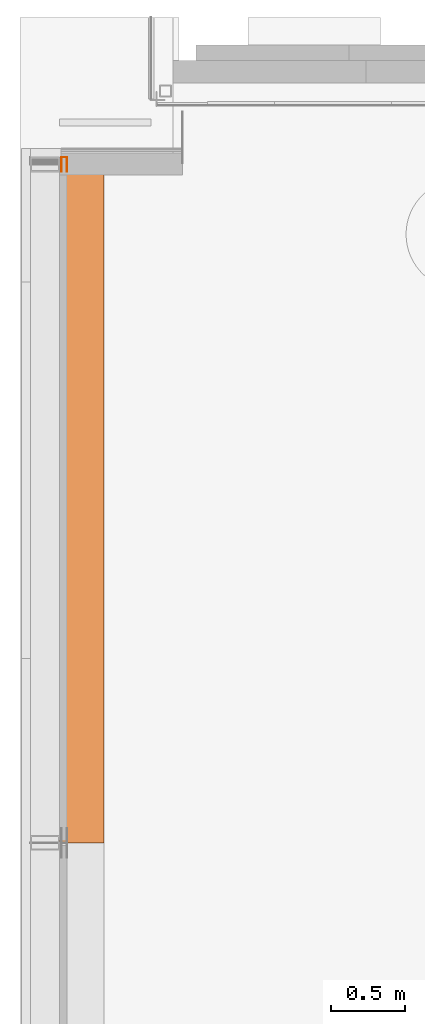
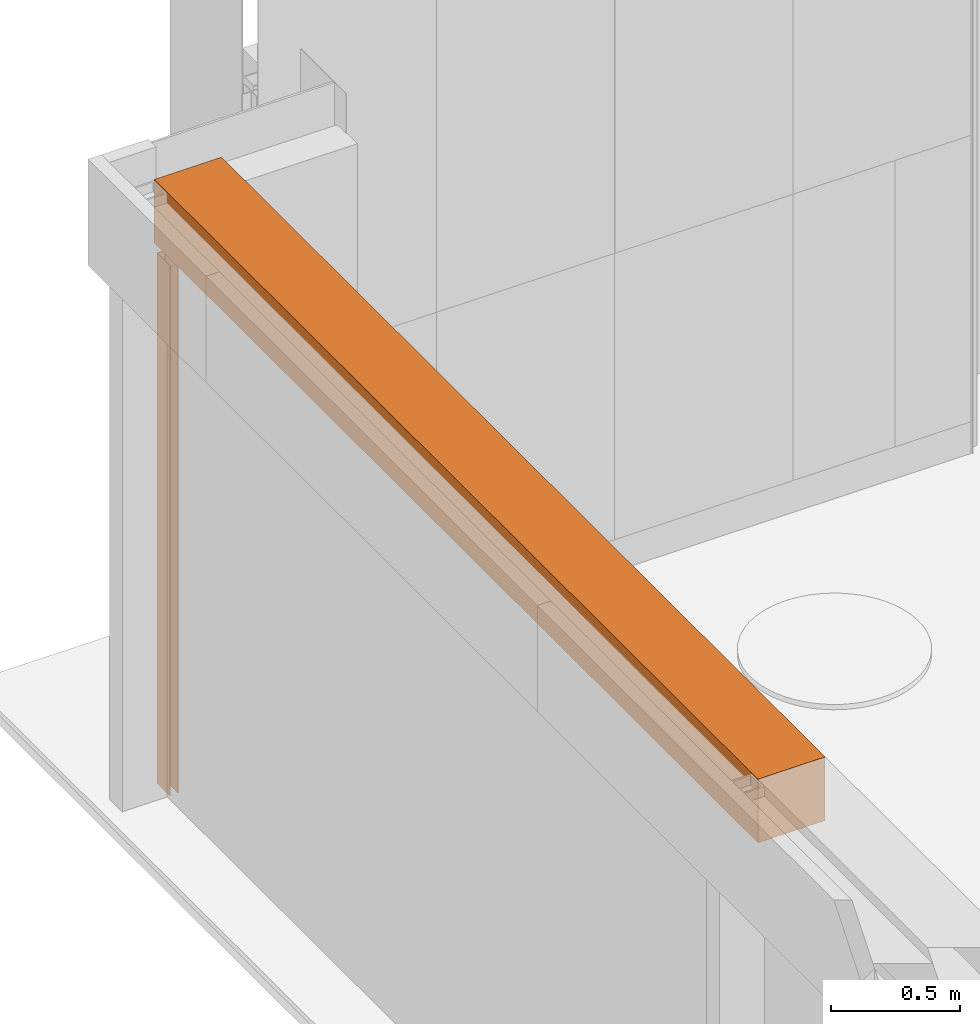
# One storey, part 12 of 14: 2 proxies.
"""IFC2X3 building model written with IfcOpenShell, lengths in millimetres."""

import ifcopenshell
import ifcopenshell.guid

model = None  # the IFC model being written
_history = None  # IfcOwnerHistory: only IFC2X3 demands one
_inside = {}  # id of a spatial element -> (the spatial element, [elements in it])
_under = {}  # id of a project, library or spatial element -> (it, [spatial elements below it])
_declared = {}  # id of a project -> (the project, [libraries it declares])
_typed = {}  # id of a type object -> (the type object, [elements of that type])
_made_of = {}  # id of a material, layer set ... -> (it, [elements and type objects made of it])


def new_model(schema):
    """Start an empty IFC model of exactly this schema.

    Asked for "IFC4X3", IfcOpenShell would pick the latest addendum, in which some entities
    have other attributes; the version numbers below select the first issue.
    IFC2X3 requires an IfcOwnerHistory on every rooted entity: one is made here for all.
    """
    global model, _history
    if schema == "IFC4X3":
        model = ifcopenshell.file(schema_version=(4, 3, 0, 0))
    else:
        model = ifcopenshell.file(schema=schema)
    _inside.clear()
    _under.clear()
    _declared.clear()
    _typed.clear()
    _made_of.clear()
    _history = None
    if model.schema == "IFC2X3":
        org = make("IfcOrganization", Name="unknown")
        user = make(
            "IfcPersonAndOrganization",
            ThePerson=make("IfcPerson", FamilyName="unknown"),
            TheOrganization=org,
        )
        app = make(
            "IfcApplication",
            ApplicationDeveloper=org,
            Version="unknown",
            ApplicationFullName="unknown",
            ApplicationIdentifier="unknown",
        )
        _history = make(
            "IfcOwnerHistory",
            OwningUser=user,
            OwningApplication=app,
            ChangeAction="ADDED",
            CreationDate=0,
        )
    return model


def make(cls, **values):
    """One entity of the class cls with the attributes given. An attribute that is None is left unset."""
    return model.create_entity(
        cls, **{name: value for name, value in values.items() if value is not None}
    )


def entity(cls, *values):
    """Any entity or typed value of the class cls, its attributes in the order of the schema. None: left unset."""
    e = model.create_entity(cls)
    for i, value in enumerate(values):
        if value is not None:
            e[i] = value
    return e


def rooted(cls, **values):
    """An entity with a GlobalId (a new one), such as an element, a storey or a relation."""
    return make(cls, GlobalId=ifcopenshell.guid.new(), OwnerHistory=_history, **values)


def si_unit(unit_type, name, prefix=None):
    """IfcSIUnit, for example si_unit("LENGTHUNIT", "METRE", prefix="MILLI")."""
    return make("IfcSIUnit", UnitType=unit_type, Prefix=prefix, Name=name)


def converted_unit(unit_type, name, factor, base, dimensions=None, offset=None):
    """IfcConversionBasedUnit, such as the inch: factor (a typed value) times the base unit."""
    return make(
        "IfcConversionBasedUnit"
        if offset is None
        else "IfcConversionBasedUnitWithOffset",
        ConversionOffset=offset,
        Dimensions=None
        if dimensions is None
        else entity("IfcDimensionalExponents", *dimensions),
        UnitType=unit_type,
        Name=name,
        ConversionFactor=make(
            "IfcMeasureWithUnit", ValueComponent=factor, UnitComponent=base
        ),
    )


def derived_unit(unit_type, elements):
    """IfcDerivedUnit: a product of units, each with its exponent."""
    return make(
        "IfcDerivedUnit",
        Elements=[
            make("IfcDerivedUnitElement", Unit=unit, Exponent=power)
            for unit, power in elements
        ],
        UnitType=unit_type,
    )


def assignment(units):
    """IfcUnitAssignment: the units of a project."""
    return None if units is None else make("IfcUnitAssignment", Units=units)


def point(xyz):
    """IfcCartesianPoint."""
    return None if xyz is None else make("IfcCartesianPoint", Coordinates=xyz)


def direction(xyz):
    """IfcDirection."""
    return None if xyz is None else make("IfcDirection", DirectionRatios=xyz)


def frame(location, z_axis=None, x_axis=None):
    """IfcAxis2Placement3D, a coordinate frame: its origin and axes. An axis left out is left unset."""
    return make(
        "IfcAxis2Placement3D",
        Location=point(location),
        Axis=direction(z_axis),
        RefDirection=direction(x_axis),
    )


def frame_2d(location, x_axis=None):
    """IfcAxis2Placement2D, a coordinate frame in the plane: its origin and x axis."""
    return make(
        "IfcAxis2Placement2D", Location=point(location), RefDirection=direction(x_axis)
    )


def origin():
    """The frame at (0, 0, 0) with its axes left unset."""
    return frame((0.0, 0.0, 0.0))


def origin_with_axes():
    """The frame at (0, 0, 0) with the z axis (0, 0, 1) and the x axis (1, 0, 0) written out."""
    return frame((0.0, 0.0, 0.0), z_axis=(0.0, 0.0, 1.0), x_axis=(1.0, 0.0, 0.0))


def place(relative_to, where):
    """IfcLocalPlacement: puts the frame where relative to a parent placement (None: the world)."""
    return make(
        "IfcLocalPlacement", PlacementRelTo=relative_to, RelativePlacement=where
    )


def context(
    kind, dimensions, precision=None, world=None, true_north=None, identifier=None
):
    """IfcGeometricRepresentationContext, for example the 3D "Model" context."""
    return make(
        "IfcGeometricRepresentationContext",
        ContextIdentifier=identifier,
        ContextType=kind,
        CoordinateSpaceDimension=dimensions,
        Precision=precision,
        WorldCoordinateSystem=world,
        TrueNorth=true_north,
    )


def subcontext(parent, identifier, kind, view, scale=None):
    """IfcGeometricRepresentationSubContext, for example "Body" below "Model"."""
    return make(
        "IfcGeometricRepresentationSubContext",
        ContextIdentifier=identifier,
        ContextType=kind,
        ParentContext=parent,
        TargetScale=scale,
        TargetView=view,
    )


def project(units=None, contexts=None):
    """IfcProject with its units and contexts."""
    return rooted(
        "IfcProject",
        Name="project",
        RepresentationContexts=contexts,
        UnitsInContext=assignment(units),
    )


def spatial(cls, under=None, at=None, **own):
    """A site, building, storey or space (cls), placed at a placement, below another one or the project."""
    s = rooted(cls, ObjectPlacement=at, **own)
    if under is not None:
        _under.setdefault(under.id(), (under, []))[1].append(s)
    return s


def polyline(points):
    """IfcPolyline through the points."""
    return make("IfcPolyline", Points=[point(p) for p in points])


def profile(cls, at=None, kind="AREA", **sizes):
    """A parametric profile (cls). Its sizes go by their IFC names, for example OverallWidth=200.0."""
    return make(cls, ProfileType=kind, Position=at, **sizes)


def rectangle(**sizes):
    """IfcRectangleProfileDef."""
    return profile("IfcRectangleProfileDef", **sizes)


def outline(outer, holes=None, kind="AREA"):
    """IfcArbitraryClosedProfileDef: a profile drawn as a closed curve; with holes, ...WithVoids."""
    if holes is None:
        return make("IfcArbitraryClosedProfileDef", ProfileType=kind, OuterCurve=outer)
    return make(
        "IfcArbitraryProfileDefWithVoids",
        ProfileType=kind,
        OuterCurve=outer,
        InnerCurves=holes,
    )


def extrude(swept, where, along, depth):
    """IfcExtrudedAreaSolid: the profile swept, set in the frame where, extruded along a direction by depth."""
    return make(
        "IfcExtrudedAreaSolid",
        SweptArea=swept,
        Position=where,
        ExtrudedDirection=direction(along),
        Depth=depth,
    )


def shape(context_of_items, identifier, shape_type, items):
    """IfcShapeRepresentation: the items that make up one representation, for example the "Body"."""
    return make(
        "IfcShapeRepresentation",
        ContextOfItems=context_of_items,
        RepresentationIdentifier=identifier,
        RepresentationType=shape_type,
        Items=items,
    )


def source(mapping_origin, context_of_items, identifier, shape_type, items):
    """IfcRepresentationMap: a shape defined once, which mapped items show again and again."""
    return make(
        "IfcRepresentationMap",
        MappingOrigin=mapping_origin,
        MappedRepresentation=shape(context_of_items, identifier, shape_type, items),
    )


def transform(
    local_origin,
    x_axis=None,
    y_axis=None,
    z_axis=None,
    scale=None,
    scale2=None,
    scale3=None,
    uniform=True,
):
    """IfcCartesianTransformationOperator3D, or its non-uniform kind. x_axis, y_axis, z_axis: its Axis1, 2, 3."""
    if uniform:
        return make(
            "IfcCartesianTransformationOperator3D",
            Axis1=direction(x_axis),
            Axis2=direction(y_axis),
            LocalOrigin=point(local_origin),
            Scale=scale,
            Axis3=direction(z_axis),
        )
    return make(
        "IfcCartesianTransformationOperator3DnonUniform",
        Axis1=direction(x_axis),
        Axis2=direction(y_axis),
        LocalOrigin=point(local_origin),
        Scale=scale,
        Axis3=direction(z_axis),
        Scale2=scale2,
        Scale3=scale3,
    )


def mapped(mapping_source, mapping_target):
    """IfcMappedItem: shows the shape of a source again, moved by a transform."""
    return make(
        "IfcMappedItem", MappingSource=mapping_source, MappingTarget=mapping_target
    )


def material(Name=None, Category=None):
    """IfcMaterial."""
    return make("IfcMaterial", Name=Name, Category=Category)


def made_of(thing, what):
    """Note that an element or type object is made of a material, layer set ...; save() writes the relation."""
    if what is not None:
        _made_of.setdefault(what.id(), (what, []))[1].append(thing)
    return thing


def type_object(cls, material=None, **own):
    """A type object (cls), such as IfcWallType, which elements share."""
    return made_of(rooted(cls, **own), material)


def element(
    cls,
    number,
    at=None,
    inside=None,
    cuts=None,
    type_object=None,
    material=None,
    context=None,
    identifier="Body",
    shape_type=None,
    held_by="IfcProductDefinitionShape",
    body=None,
    shapes=None,
    **own,
):
    """One element of the class cls, such as IfcWall. Its Tag is "e" and its number.

    at: its placement. inside: the storey or other place that contains it. cuts: it is an
    opening in that element (IfcRelVoidsElement). A single representation is given by context,
    identifier, shape_type and body (its items); several are given by shapes. held_by: the class
    of the entity that holds the representations. save() writes the other relations.
    """
    e = rooted(cls, Tag="e%d" % number, ObjectPlacement=at, **own)
    if body is not None:
        shapes = [shape(context, identifier, shape_type, body)]
    if shapes is not None:
        e.Representation = make(held_by, Representations=shapes)
    if inside is not None:
        _inside.setdefault(inside.id(), (inside, []))[1].append(e)
    if cuts is not None:
        rooted(
            "IfcRelVoidsElement", RelatingBuildingElement=cuts, RelatedOpeningElement=e
        )
    if type_object is not None:
        _typed.setdefault(type_object.id(), (type_object, []))[1].append(e)
    return made_of(e, material)


def aggregate(whole, parts):
    """IfcRelAggregates: a whole, such as a stair, and the parts it consists of."""
    return rooted("IfcRelAggregates", RelatingObject=whole, RelatedObjects=parts)


def save(model, path):
    """Write the relations noted so far, then the file.

    IfcRelAggregates (storeys below a building ...), IfcRelContainedInSpatialStructure (elements
    in a storey), IfcRelDefinesByType, IfcRelAssociatesMaterial and IfcRelDeclares: one each for
    every whole, place, type object, material and project.
    """
    for whole, parts in _under.values():
        aggregate(whole, parts)
    for where, things in _inside.values():
        rooted(
            "IfcRelContainedInSpatialStructure",
            RelatedElements=things,
            RelatingStructure=where,
        )
    for kind, things in _typed.values():
        rooted("IfcRelDefinesByType", RelatedObjects=things, RelatingType=kind)
    for what, things in _made_of.values():
        rooted("IfcRelAssociatesMaterial", RelatedObjects=things, RelatingMaterial=what)
    for by, libraries in _declared.values():
        rooted("IfcRelDeclares", RelatingContext=by, RelatedDefinitions=libraries)
    model.write(path)


model = new_model("IFC2X3")

# Units and contexts
model_context = context("Model", 3, precision=0.01, world=frame((0.0, 4.29681676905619e-09, 0.0)), true_north=direction((4.01073788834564e-13, 1.0)))
plan_context = context("Plan", 3, precision=0.01, world=frame((0.0, 4.29681676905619e-09, 0.0)), true_north=direction((4.01073788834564e-13, 1.0)))
body_context = subcontext(model_context, "Body", "Model", "MODEL_VIEW")
ifc_project = project(units=[converted_unit("PLANEANGLEUNIT", "DEGREE", entity("IfcPositiveLengthMeasure", 0.0174532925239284), si_unit("PLANEANGLEUNIT", "RADIAN"), dimensions=[0, 0, 0, 0, 0, 0, 0]), si_unit("AREAUNIT", "SQUARE_METRE"), si_unit("LENGTHUNIT", "METRE", prefix="MILLI"), si_unit("MASSUNIT", "GRAM", prefix="KILO"), si_unit("POWERUNIT", "WATT"), si_unit("PRESSUREUNIT", "PASCAL"), si_unit("FORCEUNIT", "NEWTON", prefix="KILO"), si_unit("ELECTRICVOLTAGEUNIT", "VOLT"), si_unit("ELECTRICCURRENTUNIT", "AMPERE"), si_unit("THERMODYNAMICTEMPERATUREUNIT", "DEGREE_CELSIUS"), si_unit("TIMEUNIT", "SECOND"), si_unit("VOLUMEUNIT", "CUBIC_METRE"), derived_unit("LINEARVELOCITYUNIT", [(si_unit("LENGTHUNIT", "METRE"), 1), (si_unit("TIMEUNIT", "SECOND"), -1)]), derived_unit("VOLUMETRICFLOWRATEUNIT", [(si_unit("VOLUMEUNIT", "CUBIC_METRE"), 1), (si_unit("TIMEUNIT", "SECOND"), -1)]), derived_unit("THERMALTRANSMITTANCEUNIT", [(si_unit("POWERUNIT", "WATT"), 1), (si_unit("THERMODYNAMICTEMPERATUREUNIT", "KELVIN"), -1), (si_unit("AREAUNIT", "SQUARE_METRE"), -1)]), derived_unit("SOUNDPRESSUREUNIT", [(si_unit("PRESSUREUNIT", "PASCAL"), 1)])], contexts=[model_context, plan_context])

# Site, building, storey
site_placement = place(None, origin_with_axes())
site = spatial("IfcSite", under=ifc_project, at=site_placement, Name="ENGM", CompositionType="ELEMENT")
building_placement = place(site_placement, origin_with_axes())
building = spatial("IfcBuilding", under=site, at=building_placement, Name="TI", CompositionType="ELEMENT")
storey_placement = place(building_placement, frame((0.0, 0.0, 210900.0), z_axis=(0.0, 0.0, 1.0), x_axis=(1.0, 0.0, 0.0)))
storey = spatial("IfcBuildingStorey", under=building, at=storey_placement, Name="Nivå F", CompositionType="ELEMENT", Elevation=210900.0)

# Proxies
ifc_material = material(Name="<Unnamed>")
building_element_proxy_type_1 = type_object("IfcBuildingElementProxyType", Name="A36 - Føringsskinner rullegitter:A36 - Føringsskinner rullegitter", PredefinedType="NOTDEFINED", material=ifc_material)
shared_shape_1 = source(origin(), body_context, "Body", "SweptSolid", [
    extrude(outline(polyline([(-19.0000000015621, -49.4999999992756), (-17.0000000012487, -49.4999999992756), (-16.9999999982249, 48.5000000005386), (17.0000000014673, 48.4999999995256), (16.9999999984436, -49.5000000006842), (18.999999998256, -49.5000000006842), (19.0000000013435, 50.4999999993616), (-18.9999999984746, 50.5000000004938), (-19.0000000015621, -49.4999999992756)])), frame((0.0, -0.499999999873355, 0.0)), (0.0, 0.0, 1.0), 2500.0),
])
proxy_1_placement = place(storey_placement, frame((598300.958774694, 698474.999999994, 0.0), z_axis=(0.0, 0.0, 1.0), x_axis=(1.0, 0.0, 0.0)))
element("IfcBuildingElementProxy", 1, at=proxy_1_placement, inside=storey, type_object=building_element_proxy_type_1, material=ifc_material, Name="A36 - Føringsskinner rullegitter:A36 - Føringsskinner rullegitter", ObjectType="A36 - Føringsskinner rullegitter:A36 - Føringsskinner rullegitter", context=body_context, shape_type="MappedRepresentation", body=[
    mapped(shared_shape_1, transform((0.0, 0.0, 0.0), scale=1.0)),
])
building_element_proxy_type_2 = type_object("IfcBuildingElementProxyType", Name="A234 - Gitter:A241 - Gitter 300 x 300_UK_2550", PredefinedType="NOTDEFINED", material=ifc_material)
shared_shape_2 = source(origin(), body_context, "Body", "SweptSolid", [
    extrude(rectangle(XDim=300.0, YDim=4662.50149538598, at=frame_2d((0.0, -1.75077730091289e-11), x_axis=(1.0, 0.0))), frame((2331.25074769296, -120.0, 2550.0), z_axis=(0.0, 0.0, 1.0), x_axis=(0.0, 1.0, 0.0)), (0.0, 0.0, 1.0), 300.0),
])
proxy_2_placement = place(storey_placement, frame((598299.999999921, 693862.499999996, 0.0), z_axis=(0.0, 0.0, 1.0), x_axis=(0.0, 1.0, 0.0)))
element("IfcBuildingElementProxy", 2, at=proxy_2_placement, inside=storey, type_object=building_element_proxy_type_2, material=ifc_material, Name="A234 - Gitter:A241 - Gitter 300 x 300_UK_2550", ObjectType="A234 - Gitter:A241 - Gitter 300 x 300_UK_2550", context=body_context, shape_type="MappedRepresentation", body=[
    mapped(shared_shape_2, transform((0.0, 0.0, 0.0), scale=1.0)),
])

save(model, "model.ifc")
